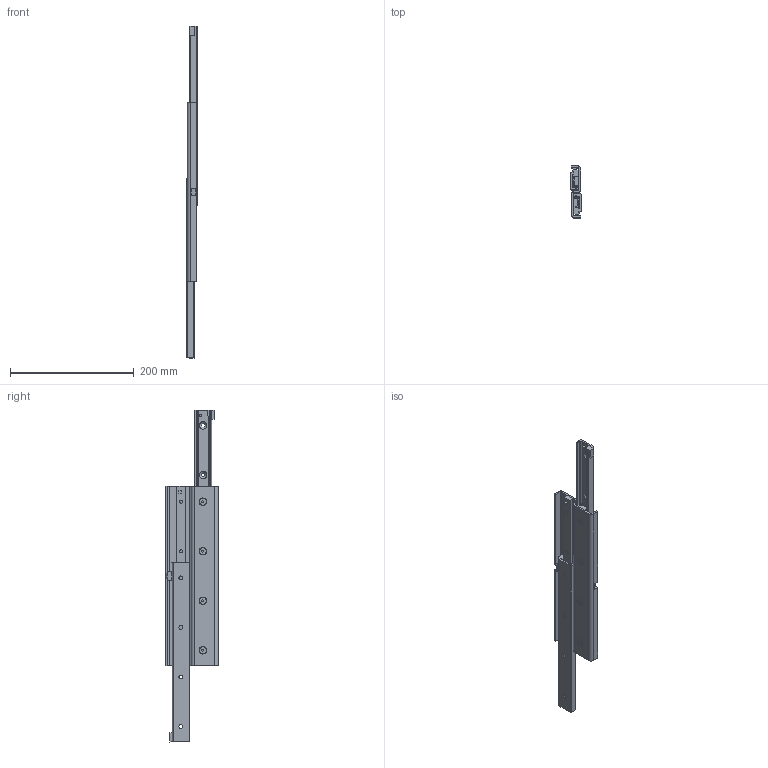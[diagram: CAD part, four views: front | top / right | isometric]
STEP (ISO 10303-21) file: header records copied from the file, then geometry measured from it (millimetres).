
FILE_DESCRIPTION (( 'STEP AP203' ), '1' );
FILE_NAME ('Default.step', '2018-07-03T12:13:21', ( '' ), ( '' ), 'SwSTEP 2.0', 'SolidWorks 2017', '' );
FILE_SCHEMA (( 'CONFIG_CONTROL_DESIGN' ));
Length unit declared in the file: millimetre
Products named in the file (5): Part3; Default; Part2; Part0; Part1
Assembly tree (7 placements, depth 2):
  Default
    Part0
    Part2  x2
    Part1  x2
    Part3  x2
Bounding box: 17 x 84 x 536 mm (x, y, z)
Volume: 250911.9 mm3; surface area: 172793.1 mm2
Topology: 7 solids, 7 shells, 392 faces, 1030 edges, 684 vertices
Faces by surface type: plane 274, cylinder 86, cone 32
Entity records: 8480 total; most frequent: CARTESIAN_POINT 1380, DIRECTION 1353, ORIENTED_EDGE 1338, EDGE_CURVE 669, LINE 519, VECTOR 519, VERTEX_POINT 444, AXIS2_PLACEMENT_3D 417
